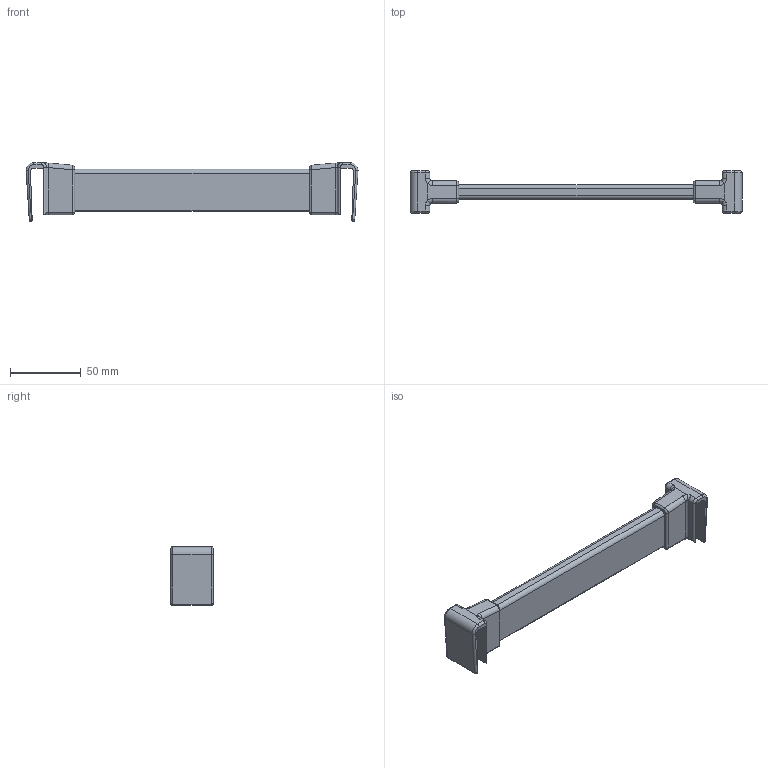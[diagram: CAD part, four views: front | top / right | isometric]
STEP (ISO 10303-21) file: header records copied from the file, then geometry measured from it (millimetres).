
FILE_DESCRIPTION (( 'STEP AP214' ), '1' );
FILE_NAME ('_Querreling_KAB-300_KS-19_P602_Glashalter.step', '2010-08-26T14:58:41', ( 'grass' ), ( '' ), 'SwSTEP 2.0', 'SolidWorks 2009', '' );
FILE_SCHEMA (( 'AUTOMOTIVE_DESIGN' ));
Length unit declared in the file: millimetre
Products named in the file (1): _Querreling_KAB-300_KS-19_P602_Glashalter
Bounding box: 234.78 x 30 x 41.5 mm (x, y, z)
Volume: 86019.2 mm3; surface area: 26744 mm2
Topology: 1 solids, 1 shells, 124 faces, 300 edges, 176 vertices
Faces by surface type: cylinder 58, plane 34, torus 16, bspline 12, sphere 4
Entity records: 5090 total; most frequent: CARTESIAN_POINT 2269, ORIENTED_EDGE 592, DIRECTION 590, EDGE_CURVE 296, AXIS2_PLACEMENT_3D 225, VERTEX_POINT 176, LINE 140, VECTOR 140
